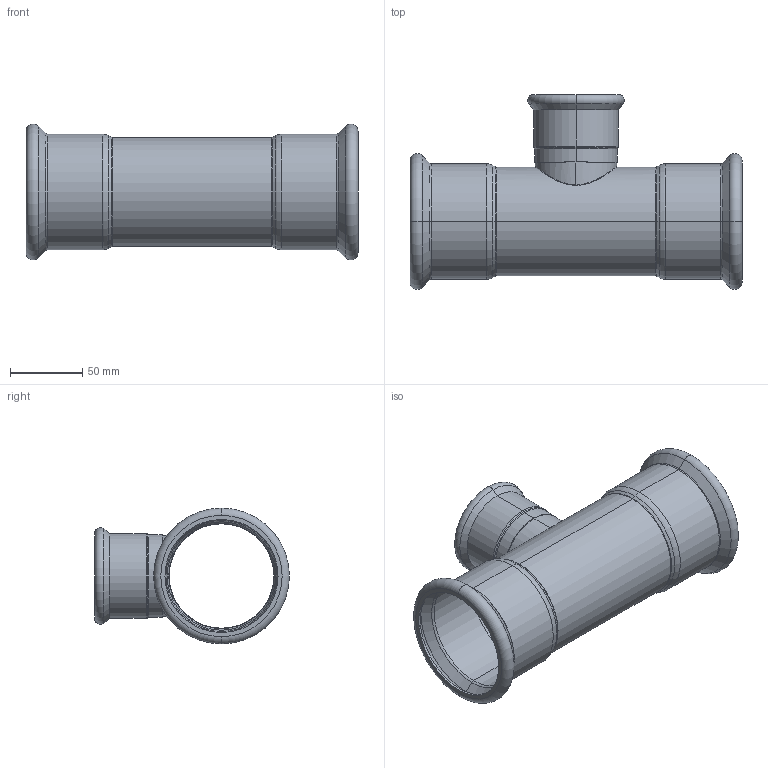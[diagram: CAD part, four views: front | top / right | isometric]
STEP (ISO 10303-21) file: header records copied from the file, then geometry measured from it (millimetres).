
FILE_DESCRIPTION (( 'STEP AP203' ), '1' );
FILE_NAME ('GDA5216.STEP', '2019-01-12T06:19:27', ( '' ), ( '' ), 'SwSTEP 2.0', 'SolidWorks 2015', '' );
FILE_SCHEMA (( 'CONFIG_CONTROL_DESIGN' ));
Length unit declared in the file: millimetre
Products named in the file (3): T-ｉ-01-54; GDA5216; T(R)-¢ñ-76.1¡Á54''
Assembly tree (2 placements, depth 2):
  GDA5216
    T(R)-¢ñ-76.1¡Á54''
    T-ｉ-01-54
Bounding box: 229 x 134.34 x 93.68 mm (x, y, z)
Volume: 106783.9 mm3; surface area: 137001.9 mm2
Topology: 2 solids, 2 shells, 110 faces, 226 edges, 124 vertices
Faces by surface type: torus 44, cylinder 30, cone 24, plane 8, bspline 4
Entity records: 4531 total; most frequent: CARTESIAN_POINT 1829, DIRECTION 596, ORIENTED_EDGE 452, AXIS2_PLACEMENT_3D 271, EDGE_CURVE 226, CIRCLE 160, VERTEX_POINT 124, EDGE_LOOP 120
